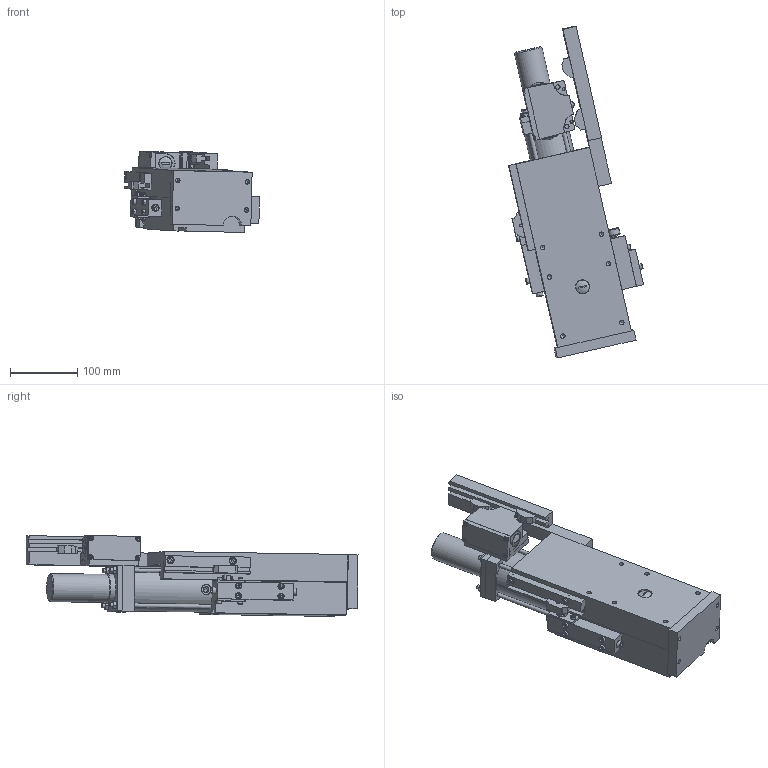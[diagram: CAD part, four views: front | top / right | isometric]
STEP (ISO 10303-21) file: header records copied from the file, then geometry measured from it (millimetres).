
FILE_DESCRIPTION((''),'2;1');
FILE_NAME('C:\VaultWork\Zeichnungen\Maßblätter\H60\VE01519-3-0 Maßblatt Vorschubschlitten H60-80 mit Gewindehülse.stp','2010-06-23T09:53:25',('Test'),(''),'Autodesk Inventor 2008','Autodesk Inventor 2008','');
FILE_SCHEMA(('AUTOMOTIVE_DESIGN { 1 0 10303 214 1 1 1 1 }'));
Length unit declared in the file: millimetre
Products named in the file (1): VE01519-3-0 Maßblatt Vorschubschlitten H60-80 mit Gewindehülse
Bounding box: 200.92 x 494.01 x 120.31 mm (x, y, z)
Volume: 3534871.2 mm3; surface area: 372288.4 mm2
Topology: 12 solids, 12 shells, 726 faces, 1861 edges, 1214 vertices
Faces by surface type: plane 497, cylinder 91, bspline 64, cone 44, torus 29, sphere 1
Full cylindrical faces by diameter (mm): 4 x7, 5.5 x2, 5.9 x2, 6 x14, 6.6 x2, 7 x4, 8.5 x9, 9.98 x2, 10 x8, 15 x2, 17 x1, 18 x1, 20 x3, 42 x1, 44 x1, 66 x1
Entity records: 22298 total; most frequent: CARTESIAN_POINT 5351, ORIENTED_EDGE 3208, DIRECTION 3136, EDGE_CURVE 1604, VERTEX_POINT 1131, VECTOR 1054, LINE 1054, AXIS2_PLACEMENT_3D 1041
